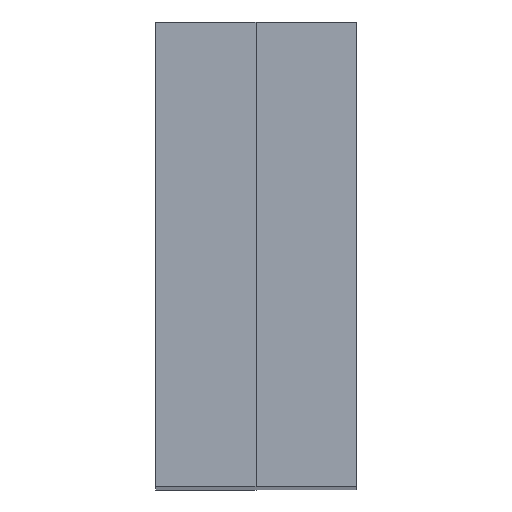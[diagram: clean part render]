
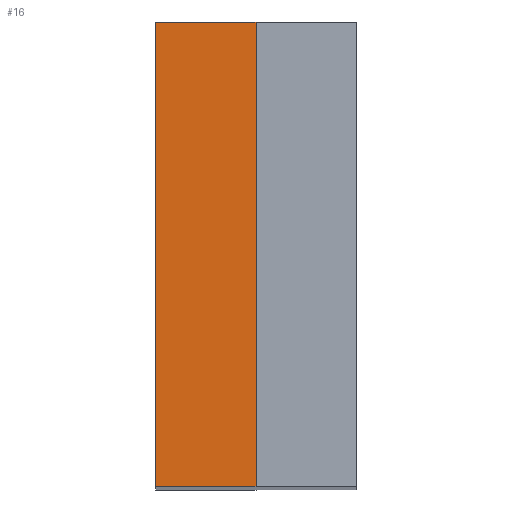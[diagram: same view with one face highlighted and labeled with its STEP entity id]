
A CAD part, top view. The second image highlights one B-rep face of the part: STEP entity #16.
In plain terms, the highlighted planar face has unit normal (0, 0, 1).
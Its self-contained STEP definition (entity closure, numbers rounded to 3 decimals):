
#16 = ADVANCED_FACE ( 'NONE', ( #65 ), #600, .F. ) ;
#41 = CARTESIAN_POINT ( 'NONE',  ( 0., 21.149, 96.887 ) ) ;
#45 = DIRECTION ( 'NONE',  ( 0., 1., 0. ) ) ;
#46 = ORIENTED_EDGE ( 'NONE', *, *, #494, .T. ) ;
#65 = FACE_OUTER_BOUND ( 'NONE', #730, .T. ) ;
#73 = VECTOR ( 'NONE', #194, 1000. ) ;
#82 = CARTESIAN_POINT ( 'NONE',  ( 0., -2.051, 96.887 ) ) ;
#117 = VECTOR ( 'NONE', #636, 1000. ) ;
#118 = ORIENTED_EDGE ( 'NONE', *, *, #718, .F. ) ;
#163 = LINE ( 'NONE', #292, #73 ) ;
#173 = VERTEX_POINT ( 'NONE', #473 ) ;
#194 = DIRECTION ( 'NONE',  ( 0., -1., 0. ) ) ;
#212 = VECTOR ( 'NONE', #379, 1000. ) ;
#242 = VERTEX_POINT ( 'NONE', #512 ) ;
#292 = CARTESIAN_POINT ( 'NONE',  ( 0., 21.149, 96.887 ) ) ;
#356 = EDGE_CURVE ( 'NONE', #173, #507, #513, .T. ) ;
#358 = AXIS2_PLACEMENT_3D ( 'NONE', #413, #515, #639 ) ;
#374 = LINE ( 'NONE', #431, #212 ) ;
#379 = DIRECTION ( 'NONE',  ( -1., 0., 0. ) ) ;
#413 = CARTESIAN_POINT ( 'NONE',  ( 10., 21.149, 96.887 ) ) ;
#431 = CARTESIAN_POINT ( 'NONE',  ( 10., -2.051, 96.887 ) ) ;
#471 = LINE ( 'NONE', #598, #626 ) ;
#473 = CARTESIAN_POINT ( 'NONE',  ( 5., 21.149, 96.887 ) ) ;
#483 = ORIENTED_EDGE ( 'NONE', *, *, #356, .T. ) ;
#494 = EDGE_CURVE ( 'NONE', #242, #173, #471, .T. ) ;
#507 = VERTEX_POINT ( 'NONE', #41 ) ;
#512 = CARTESIAN_POINT ( 'NONE',  ( 5., -2.051, 96.887 ) ) ;
#513 = LINE ( 'NONE', #759, #117 ) ;
#515 = DIRECTION ( 'NONE',  ( 0., 0., -1. ) ) ;
#598 = CARTESIAN_POINT ( 'NONE',  ( 5., 21.149, 96.887 ) ) ;
#600 = PLANE ( 'NONE',  #358 ) ;
#626 = VECTOR ( 'NONE', #45, 1000. ) ;
#636 = DIRECTION ( 'NONE',  ( -1., 0., 0. ) ) ;
#639 = DIRECTION ( 'NONE',  ( -1., 0., 0. ) ) ;
#664 = EDGE_CURVE ( 'NONE', #507, #782, #163, .T. ) ;
#668 = ORIENTED_EDGE ( 'NONE', *, *, #664, .T. ) ;
#718 = EDGE_CURVE ( 'NONE', #242, #782, #374, .T. ) ;
#730 = EDGE_LOOP ( 'NONE', ( #118, #46, #483, #668 ) ) ;
#759 = CARTESIAN_POINT ( 'NONE',  ( 10., 21.149, 96.887 ) ) ;
#782 = VERTEX_POINT ( 'NONE', #82 ) ;
